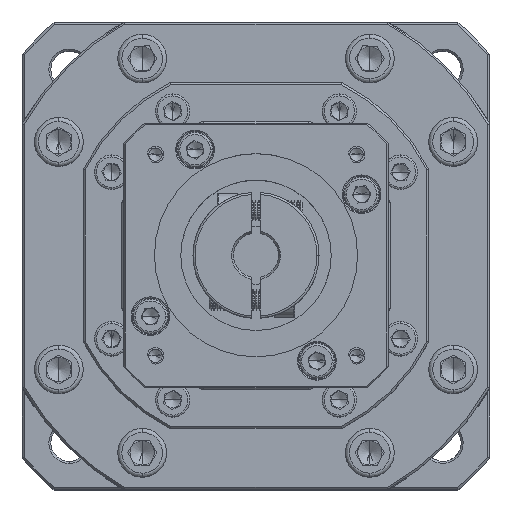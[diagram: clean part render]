
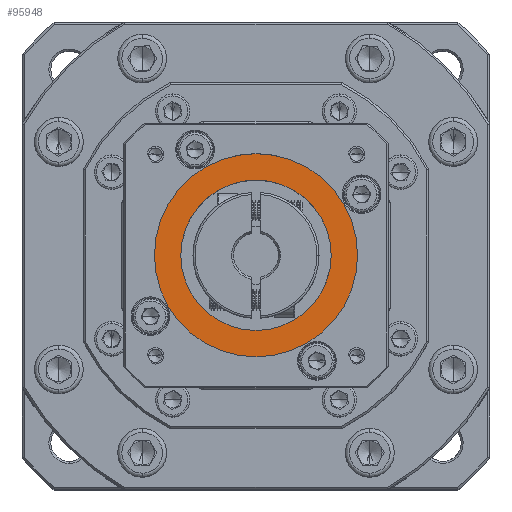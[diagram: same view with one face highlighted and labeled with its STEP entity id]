
A CAD part, top view. The second image highlights one B-rep face of the part: STEP entity #95948.
In plain terms, the highlighted planar face has unit normal (0, 0, 1).
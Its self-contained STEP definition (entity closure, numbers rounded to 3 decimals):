
#2585 = DIRECTION ( 'NONE',  ( 0., 0., 1. ) ) ;
#7316 = DIRECTION ( 'NONE',  ( 1., 0., 0. ) ) ;
#9879 = DIRECTION ( 'NONE',  ( 0., 0., -1. ) ) ;
#11535 = CARTESIAN_POINT ( 'NONE',  ( 75.794, -36.165, -1.707 ) ) ;
#12609 = CARTESIAN_POINT ( 'NONE',  ( 57.294, -36.165, -1.707 ) ) ;
#18904 = CIRCLE ( 'NONE', #116764, 25. ) ;
#22187 = DIRECTION ( 'NONE',  ( 1., 0., 0. ) ) ;
#22510 = EDGE_LOOP ( 'NONE', ( #83335, #53283 ) ) ;
#27649 = VERTEX_POINT ( 'NONE', #122572 ) ;
#34635 = DIRECTION ( 'NONE',  ( 0., 0., 1. ) ) ;
#49825 = CIRCLE ( 'NONE', #119880, 18.5 ) ;
#52438 = AXIS2_PLACEMENT_3D ( 'NONE', #121408, #64385, #7316 ) ;
#52888 = CIRCLE ( 'NONE', #103476, 25. ) ;
#53265 = VERTEX_POINT ( 'NONE', #11535 ) ;
#53283 = ORIENTED_EDGE ( 'NONE', *, *, #110569, .T. ) ;
#59626 = CARTESIAN_POINT ( 'NONE',  ( 57.294, -36.165, -1.707 ) ) ;
#64385 = DIRECTION ( 'NONE',  ( 0., 0., 1. ) ) ;
#65888 = VERTEX_POINT ( 'NONE', #105714 ) ;
#66980 = CARTESIAN_POINT ( 'NONE',  ( 57.294, -36.165, -1.707 ) ) ;
#69199 = DIRECTION ( 'NONE',  ( 1., 0., 0. ) ) ;
#69539 = EDGE_CURVE ( 'NONE', #27649, #65888, #52888, .T. ) ;
#76560 = DIRECTION ( 'NONE',  ( 1., 0., 0. ) ) ;
#79264 = DIRECTION ( 'NONE',  ( 0., 0., -1. ) ) ;
#80146 = EDGE_CURVE ( 'NONE', #53265, #90044, #49825, .T. ) ;
#83154 = PLANE ( 'NONE',  #52438 ) ;
#83335 = ORIENTED_EDGE ( 'NONE', *, *, #80146, .T. ) ;
#88920 = EDGE_LOOP ( 'NONE', ( #95296, #98079 ) ) ;
#90044 = VERTEX_POINT ( 'NONE', #93378 ) ;
#91725 = CARTESIAN_POINT ( 'NONE',  ( 57.294, -36.165, -1.707 ) ) ;
#92052 = EDGE_CURVE ( 'NONE', #65888, #27649, #18904, .T. ) ;
#93378 = CARTESIAN_POINT ( 'NONE',  ( 38.794, -36.165, -1.707 ) ) ;
#95296 = ORIENTED_EDGE ( 'NONE', *, *, #69539, .T. ) ;
#95948 = ADVANCED_FACE ( 'NONE', ( #100384, #122689 ), #83154, .T. ) ;
#98079 = ORIENTED_EDGE ( 'NONE', *, *, #92052, .T. ) ;
#98399 = AXIS2_PLACEMENT_3D ( 'NONE', #66980, #9879, #76560 ) ;
#100384 = FACE_OUTER_BOUND ( 'NONE', #88920, .T. ) ;
#101309 = DIRECTION ( 'NONE',  ( 1., 0., 0. ) ) ;
#103001 = CIRCLE ( 'NONE', #98399, 18.5 ) ;
#103476 = AXIS2_PLACEMENT_3D ( 'NONE', #59626, #2585, #69199 ) ;
#105714 = CARTESIAN_POINT ( 'NONE',  ( 32.294, -36.165, -1.707 ) ) ;
#110569 = EDGE_CURVE ( 'NONE', #90044, #53265, #103001, .T. ) ;
#116764 = AXIS2_PLACEMENT_3D ( 'NONE', #91725, #34635, #101309 ) ;
#119880 = AXIS2_PLACEMENT_3D ( 'NONE', #12609, #79264, #22187 ) ;
#121408 = CARTESIAN_POINT ( 'NONE',  ( 57.294, -36.165, -1.707 ) ) ;
#122572 = CARTESIAN_POINT ( 'NONE',  ( 82.294, -36.165, -1.707 ) ) ;
#122689 = FACE_BOUND ( 'NONE', #22510, .T. ) ;
